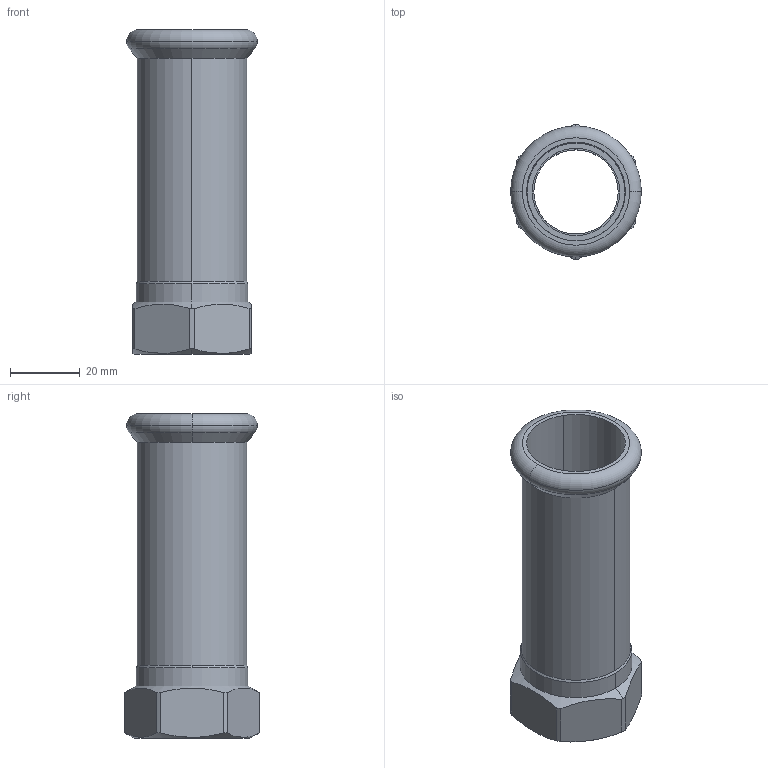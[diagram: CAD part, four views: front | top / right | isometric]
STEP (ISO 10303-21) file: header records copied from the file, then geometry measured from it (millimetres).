
FILE_DESCRIPTION(('CoCreate Modeling STEP Export'),'2;1');
FILE_NAME('C1443 28xRp3-4.stp','2014-11-12T16:44:47',(''),(''),'CoCreate Modeling STEP processor for AP214 (Solid Model)','CoCreate Modeling 17.00A 17-Jun-2010 (C) Parametric Technology GmbH','');
FILE_SCHEMA(('AUTOMOTIVE_DESIGN { 1 0 10303 214 1 1 1 1 }'));
Length unit declared in the file: millimetre
Products named in the file (2): C1443_28xRp3-4
Assembly tree (1 placements, depth 2):
  C1443_28xRp3-4
    C1443_28xRp3-4
Bounding box: 37.45 x 38.5 x 93 mm (x, y, z)
Volume: 20760.7 mm3; surface area: 18742.5 mm2
Topology: 1 solids, 1 shells, 44 faces, 115 edges, 75 vertices
Faces by surface type: cylinder 18, cone 12, plane 10, torus 4
Entity records: 2130 total; most frequent: CARTESIAN_POINT 1099, ORIENTED_EDGE 230, DIRECTION 176, EDGE_CURVE 115, VERTEX_POINT 75, AXIS2_PLACEMENT_3D 70, EDGE_LOOP 48, FACE_OUTER_BOUND 44
